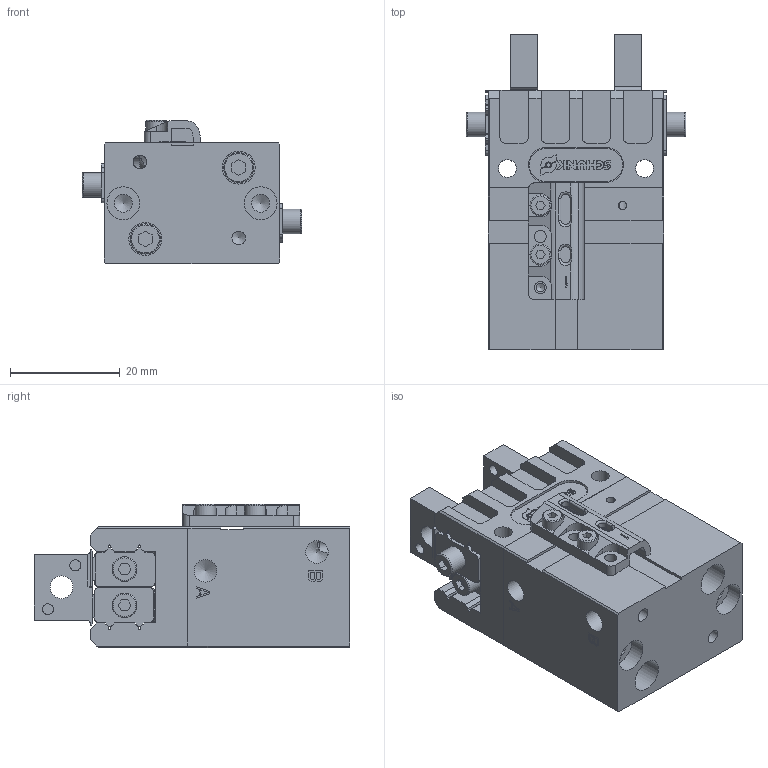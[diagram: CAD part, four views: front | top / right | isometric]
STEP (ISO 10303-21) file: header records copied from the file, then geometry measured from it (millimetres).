
FILE_DESCRIPTION(/* description */ ('STEP AP214'),/* implementation_level */ '2;1');
FILE_NAME(/* name */ 'SCHUNK-0305512 MPG-plus 32-AS_ 0000000',/* time_stamp */ '2026-03-24T16:46:43+01:00',/* author */ ('License CC BY-ND 4.0'),/* organization */ ('CADENAS'),/* preprocessor_version */ 'ST-DEVELOPER v20',/* originating_system */ 'PARTsolutions',/* authorisation */ ' ');
FILE_SCHEMA (('AUTOMOTIVE_DESIGN {1 0 10303 214 3 1 1}'));
Length unit declared in the file: millimetre
Products named in the file (8): SCHUNK-0305512 MPG-plus 32-AS, 0000000; SCHUNK-5519948 Gehaeuse MPG-plus 32 AS; SCHUNK-1007751 Bracket MPG-plus 32; SCHUNK-5518776 Abdeckgehaeuse MPG-plus 32; SCHUNK-5518778 Finger MPG-plus 32; SCHUNK-9962712 Bracket MPG 32; SCHUNK-9965221-Scheibe D4_5; SCHUNK-9954530 Typenschild 6x17x0.3
Assembly tree (14 placements, depth 2):
  SCHUNK-0305512 MPG-plus 32-AS, 0000000
    SCHUNK-5519948 Gehaeuse MPG-plus 32 AS
    SCHUNK-1007751 Bracket MPG-plus 32
    SCHUNK-5518776 Abdeckgehaeuse MPG-plus 32
    SCHUNK-5518778 Finger MPG-plus 32  x2
    SCHUNK-9962712 Bracket MPG 32  x4
    SCHUNK-9965221-Scheibe D4_5  x4
    SCHUNK-9954530 Typenschild 6x17x0.3
Bounding box: 40 x 57.5 x 26.1 mm (x, y, z)
Volume: 29671.1 mm3; surface area: 16649.4 mm2
Topology: 14 solids, 14 shells, 664 faces, 1761 edges, 1163 vertices
Faces by surface type: plane 463, cylinder 162, cone 27, torus 12
Full cylindrical faces by diameter (mm): 0.792 x1, 1.567 x7, 2 x6, 2.013 x4, 2.2 x4, 2.459 x7, 3.1 x2, 3.242 x4, 3.8 x2, 4.134 x4, 4.5 x4, 5.5 x2, 6 x6
Entity records: 18460 total; most frequent: CARTESIAN_POINT 2854, DIRECTION 2611, ORIENTED_EDGE 2600, EDGE_CURVE 1300, LINE 1021, VECTOR 1021, VERTEX_POINT 910, AXIS2_PLACEMENT_3D 795
